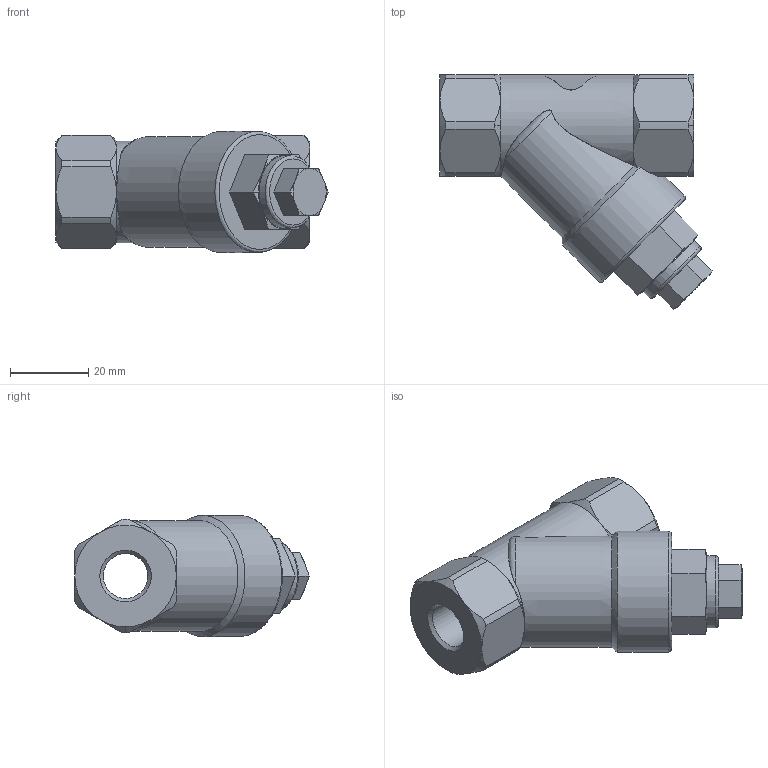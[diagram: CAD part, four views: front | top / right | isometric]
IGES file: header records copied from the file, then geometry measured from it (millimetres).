
Start section: Data from Parasolid IGES Translator 15.0.47, Copyright(c) 2006 Siemens P LM Software. All Rights Reserved.
Global section: file name: 60-1_ES.igs; native system:  By UGS Corp.; preprocessor: XPlus GENERIC/IGES 3.0; author: Noname; organization: Noname; date: 20140806.101630; units: millimetre
Bounding box: 69.65 x 60 x 31 mm (x, y, z)
Surface area: 12234.9 mm2 (no closed solid volume)
Topology: 0 solids, 0 shells, 107 faces, 530 edges, 521 vertices
Faces by surface type: revolution 76, extrusion 31
